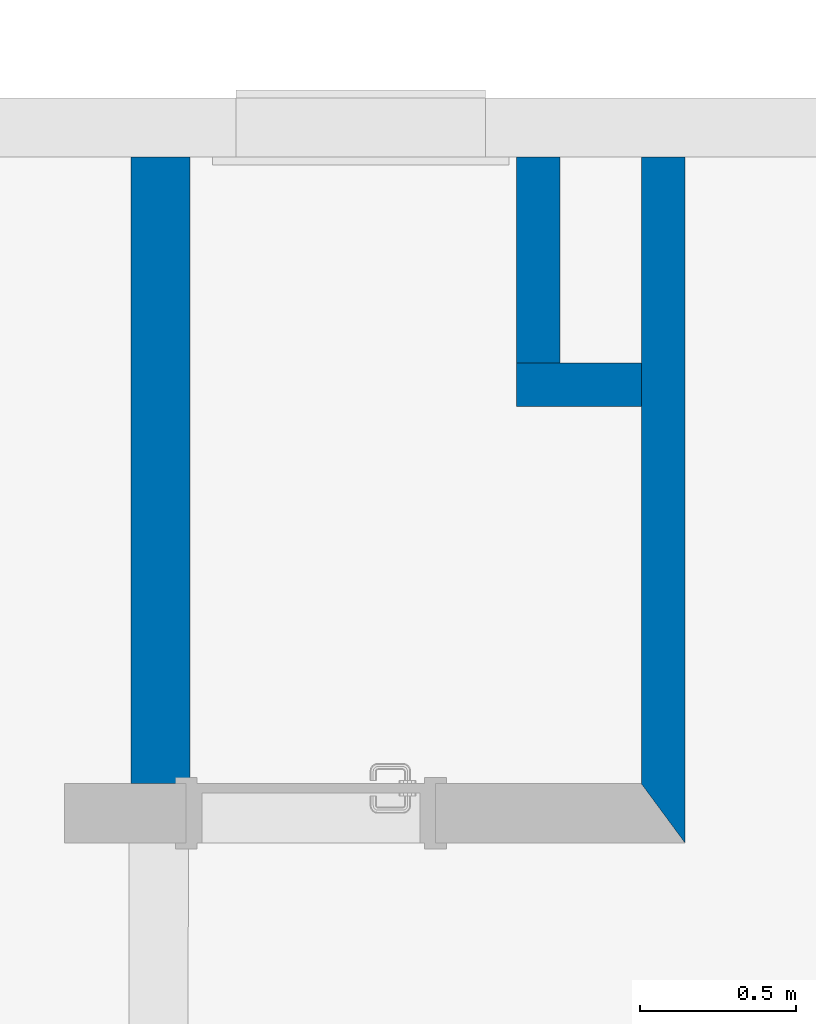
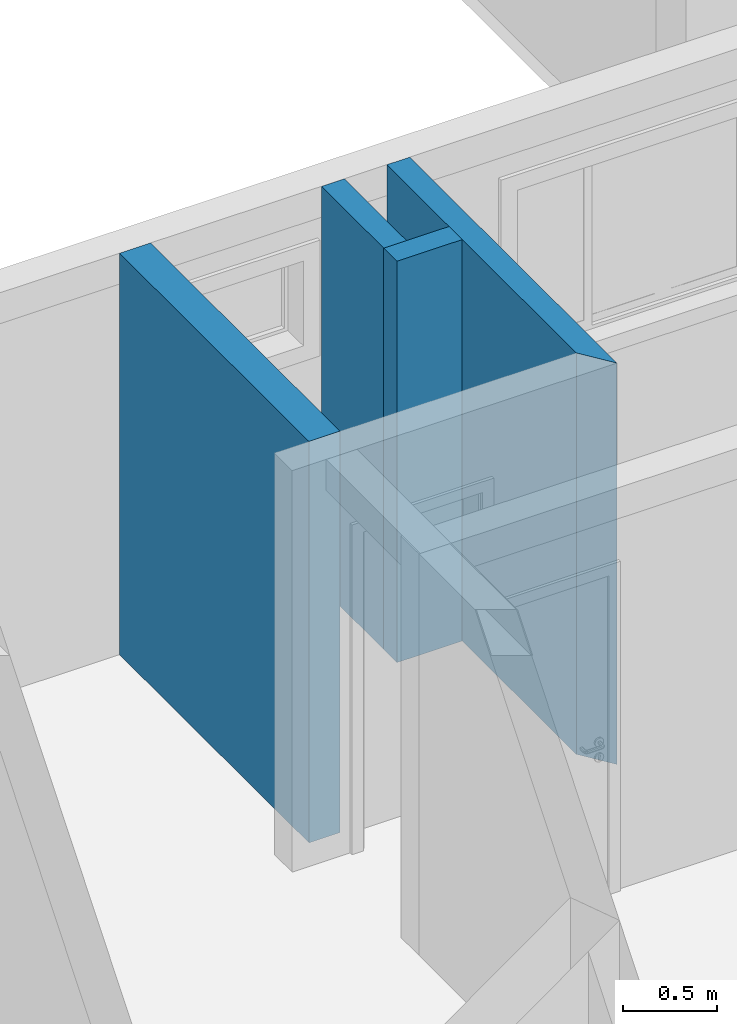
# One storey, part 8 of 43: 4 walls.
"""IFC2X3 building model written with IfcOpenShell, lengths in millimetres."""

from ifc_helpers import new_model, entity, si_unit, converted_unit, derived_unit, money_unit, direction, frame, origin_with_axes, place, context, subcontext, project, spatial, polyline, outline, extrude, material, layer, layer_set, layer_usage, type_object, element, save


model = new_model("IFC2X3")

# Units and contexts
model_context = context("Model", 3, precision=0.01, world=origin_with_axes(), true_north=direction((0.0, 1.0)))
body_context = subcontext(model_context, "Body", "Model", "MODEL_VIEW")
ifc_project = project(units=[si_unit("LENGTHUNIT", "METRE", prefix="MILLI"), si_unit("AREAUNIT", "SQUARE_METRE"), si_unit("VOLUMEUNIT", "CUBIC_METRE"), converted_unit("PLANEANGLEUNIT", "DEGREE", entity("IfcPlaneAngleMeasure", 0.0174532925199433), si_unit("PLANEANGLEUNIT", "RADIAN"), dimensions=[0, 0, 0, 0, 0, 0, 0]), money_unit("USD"), converted_unit("TIMEUNIT", "Year", entity("IfcTimeMeasure", 31557600.0), si_unit("TIMEUNIT", "SECOND"), dimensions=[0, 0, 1, 0, 0, 0, 0]), si_unit("MASSUNIT", "GRAM", prefix="KILO"), si_unit("THERMODYNAMICTEMPERATUREUNIT", "DEGREE_CELSIUS"), si_unit("LUMINOUSINTENSITYUNIT", "LUMEN"), si_unit("ENERGYUNIT", "JOULE", prefix="MEGA"), derived_unit("THERMALCONDUCTANCEUNIT", [(si_unit("POWERUNIT", "WATT"), 1), (si_unit("LENGTHUNIT", "METRE"), -1), (si_unit("THERMODYNAMICTEMPERATUREUNIT", "KELVIN"), -1)]), derived_unit("SPECIFICHEATCAPACITYUNIT", [(si_unit("ENERGYUNIT", "JOULE"), 1), (si_unit("MASSUNIT", "GRAM", prefix="KILO"), -1), (si_unit("THERMODYNAMICTEMPERATUREUNIT", "KELVIN"), -1)]), derived_unit("MASSDENSITYUNIT", [(si_unit("MASSUNIT", "GRAM", prefix="KILO"), 1), (si_unit("VOLUMEUNIT", "CUBIC_METRE"), -1)])], contexts=[model_context])

# Site, building, storey
site_placement = place(None, origin_with_axes())
site = spatial("IfcSite", under=ifc_project, at=site_placement, Name="Local", CompositionType="ELEMENT")
building_placement = place(site_placement, origin_with_axes())
building = spatial("IfcBuilding", under=site, at=building_placement, Name="Construção", CompositionType="ELEMENT")
storey_placement = place(building_placement, origin_with_axes())
storey = spatial("IfcBuildingStorey", under=building, at=storey_placement, Name="Pavimento Tipo", CompositionType="ELEMENT", Elevation=0.0)

# Walls
ifc_material_1 = material(Name="Concreto - Estrutural")
ifc_layer_1 = layer(ifc_material_1, 190.0, ventilated="UNKNOWN")
ifc_layer_set_1 = layer_set([ifc_layer_1], Name="Concreto - Estrutural 190")
ifc_layer_usage_1 = layer_usage(ifc_layer_set_1, "AXIS2", "NEGATIVE", 190.0)
wall_type_1 = type_object("IfcWallType", Name="Concreto - Estrutural 190", PredefinedType="NOTDEFINED")
wall_1_placement = place(storey_placement, frame((57529.75041745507, -1757.538479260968, 0.0), z_axis=(0.0, 0.0, 1.0), x_axis=(0.0, -1.0, 0.0)))
element("IfcWallStandardCase", 1, at=wall_1_placement, inside=storey, type_object=wall_type_1, material=ifc_layer_usage_1, Name="Apartamento 3 - Parede-009", context=body_context, shape_type="SweptSolid", body=[
    extrude(outline(polyline([(0.0, 0.0), (2010.0, 0.0), (2010.0, 189.9999999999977), (0.0, 189.9999999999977), (0.0, 0.0)])), origin_with_axes(), (0.0, 0.0, 1.0), 2600.0),
])
ifc_material_2 = material(Name="Concreto")
ifc_layer_2 = layer(ifc_material_2, 140.0, ventilated="UNKNOWN")
ifc_layer_set_2 = layer_set([ifc_layer_2], Name="Concreto 140")
ifc_layer_usage_2 = layer_usage(ifc_layer_set_2, "AXIS2", "NEGATIVE", 0.0)
wall_type_2 = type_object("IfcWallType", Name="Concreto 140", PredefinedType="NOTDEFINED")
wall_2_placement = place(storey_placement, frame((59307.434598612, -1757.538479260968, 0.0), z_axis=(0.0, 0.0, 1.0), x_axis=(0.0, -1.0, 0.0)))
element("IfcWallStandardCase", 2, at=wall_2_placement, inside=storey, type_object=wall_type_2, material=ifc_layer_usage_2, Name="Apartamento 3 - Parede-010", context=body_context, shape_type="SweptSolid", body=[
    extrude(outline(polyline([(0.0, -140.0000000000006), (2009.999999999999, -140.0000000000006), (2200.0, 0.0), (0.0, 0.0), (0.0, -140.0000000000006)])), origin_with_axes(), (0.0, 0.0, 1.0), 2600.0),
])
ifc_layer_usage_3 = layer_usage(ifc_layer_set_2, "AXIS2", "NEGATIVE", 0.0)
wall_3_placement = place(storey_placement, frame((58907.434598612, -1757.538479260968, 0.0), z_axis=(0.0, 0.0, 1.0), x_axis=(0.0, -1.0, 0.0)))
element("IfcWallStandardCase", 3, at=wall_3_placement, inside=storey, type_object=wall_type_2, material=ifc_layer_usage_3, Name="Apartamento 3 - Parede-012", context=body_context, shape_type="SweptSolid", body=[
    extrude(outline(polyline([(0.0, -140.0000000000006), (660.0000000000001, -140.0000000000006), (660.0000000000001, 0.0), (0.0, 0.0), (0.0, -140.0000000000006)])), origin_with_axes(), (0.0, 0.0, 1.0), 2600.0),
])
ifc_layer_usage_4 = layer_usage(ifc_layer_set_2, "AXIS2", "NEGATIVE", 0.0)
wall_4_placement = place(storey_placement, frame((58767.434598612, -2417.538479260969, 0.0), z_axis=(0.0, 0.0, 1.0), x_axis=(1.0, 0.0, 0.0)))
element("IfcWallStandardCase", 4, at=wall_4_placement, inside=storey, type_object=wall_type_2, material=ifc_layer_usage_4, Name="Apartamento 3 - Parede-011", context=body_context, shape_type="SweptSolid", body=[
    extrude(outline(polyline([(0.0, -140.0000000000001), (400.0000000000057, -140.0000000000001), (400.0000000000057, 0.0), (0.0, 0.0), (0.0, -140.0000000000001)])), origin_with_axes(), (0.0, 0.0, 1.0), 2600.0),
])

save(model, "model.ifc")
